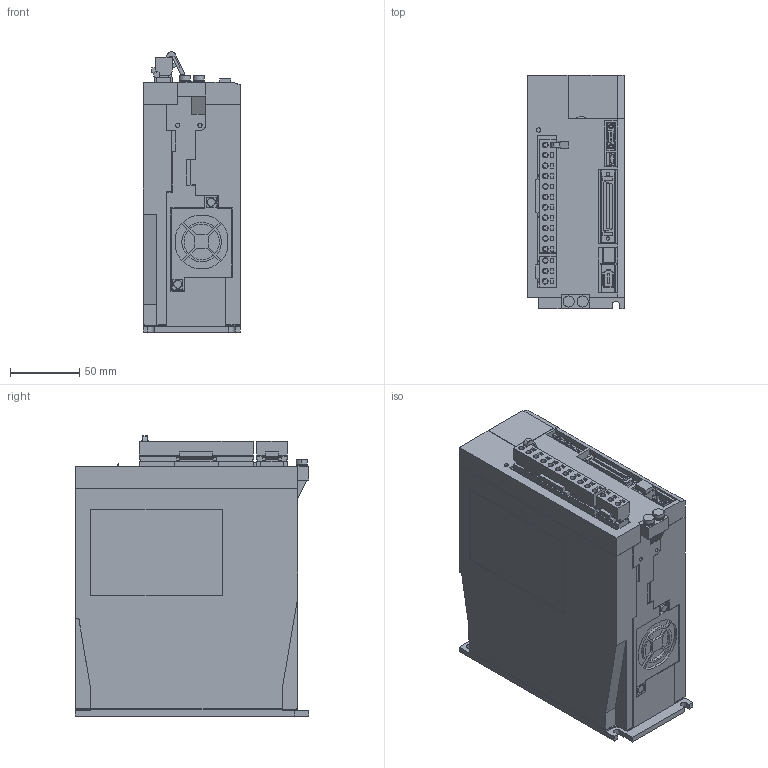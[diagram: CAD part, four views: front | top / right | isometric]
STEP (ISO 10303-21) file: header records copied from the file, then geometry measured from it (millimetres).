
FILE_DESCRIPTION (( 'STEP AP203' ), '1' );
FILE_NAME ('sgd7s_2r8f00a.STEP', '2016-06-20T07:05:47', ( '匠エンジニアリング山之内' ), ( 'TAKUMI-Engniaring' ), 'SwSTEP 2.0', 'SolidWorks 2006303', '' );
FILE_SCHEMA (( 'CONFIG_CONTROL_DESIGN' ));
Products named in the file (9): sgd7s_2r8f00a_cover; sgd7s_2r8f00a_cover2; sgd7s_2r8f00a; sgd7s_2r8f00a_base; sgd7s_2r8f00a_connector; sgd7s_2r8f00a_connector_2; sgd7s_2r8f00a_pin; sgd7s_2r8f00a_connector_1; sgd7s_2r8f00a_connector_3
Assembly tree (9 placements, depth 3):
  sgd7s_2r8f00a
    sgd7s_2r8f00a_connector
      sgd7s_2r8f00a_connector_2
      sgd7s_2r8f00a_pin
    sgd7s_2r8f00a_connector_1
    sgd7s_2r8f00a_cover2  x2
    sgd7s_2r8f00a_connector_3
    sgd7s_2r8f00a_cover
    sgd7s_2r8f00a_base
Bounding box: 70.5 x 168 x 201.83 mm (x, y, z)
Volume: 1987368.5 mm3; surface area: 150153.8 mm2
Topology: 8 solids, 8 shells, 1711 faces, 4414 edges, 2913 vertices
Faces by surface type: plane 1454, cylinder 252, cone 4, sphere 1
Entity records: 51736 total; most frequent: CARTESIAN_POINT 8940, ORIENTED_EDGE 8720, DIRECTION 8283, EDGE_CURVE 4360, VECTOR 3843, LINE 3843, VERTEX_POINT 2877, AXIS2_PLACEMENT_3D 2220
